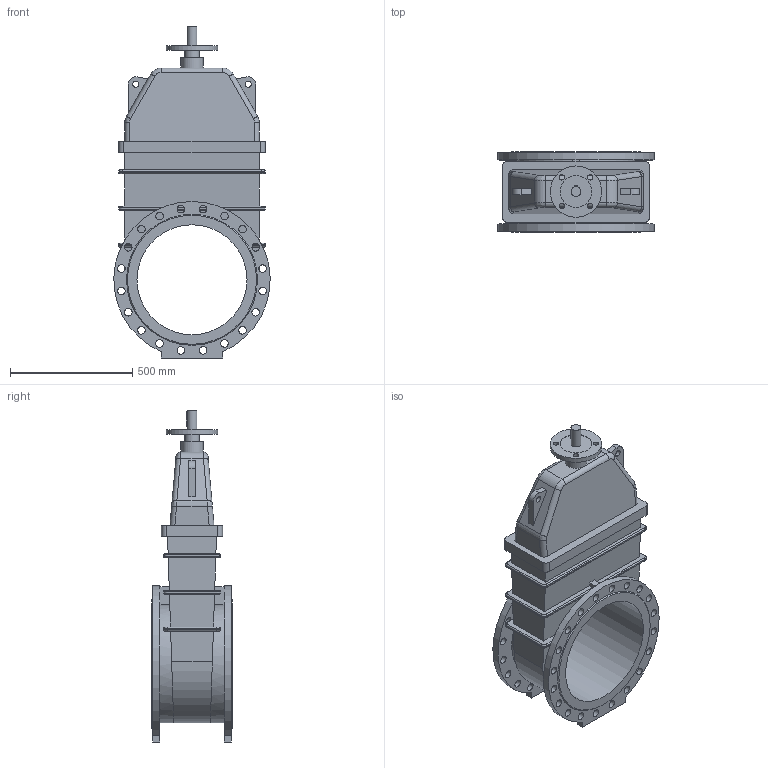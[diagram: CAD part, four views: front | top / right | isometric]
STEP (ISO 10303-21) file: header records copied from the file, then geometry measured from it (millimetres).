
FILE_DESCRIPTION(('STEP AP203'), '1');
FILE_NAME('Çàäâèæêà 47GVA DN450 PN16 áåç èñïîëíèò. ìåõ.', '', ('UNSPECIFIED'), ('UNSPECIFIED'), 'ASCON STEP Converter 1.6', 'ASCON Math Kernel', '');
FILE_SCHEMA(('CONFIG_CONTROL_DESIGN'));
Length unit declared in the file: millimetre
Bounding box: 639.72 x 330 x 1358 mm (x, y, z)
Volume: 85905061.8 mm3; surface area: 3020710.3 mm2
Topology: 1 solids, 1 shells, 269 faces, 678 edges, 430 vertices
Faces by surface type: cylinder 131, plane 104, bspline 32, cone 2
Full cylindrical faces by diameter (mm): 22 x4, 25 x2, 31 x40, 40 x1, 60 x1, 90 x1, 130 x1, 210 x1, 450 x1
Entity records: 12986 total; most frequent: CARTESIAN_POINT 4550, ORIENTED_EDGE 1248, DIRECTION 1220, EDGE_CURVE 624, AXIS2_PLACEMENT_3D 452, EDGE_LOOP 436, VERTEX_POINT 430, FACE_BOUND 328
